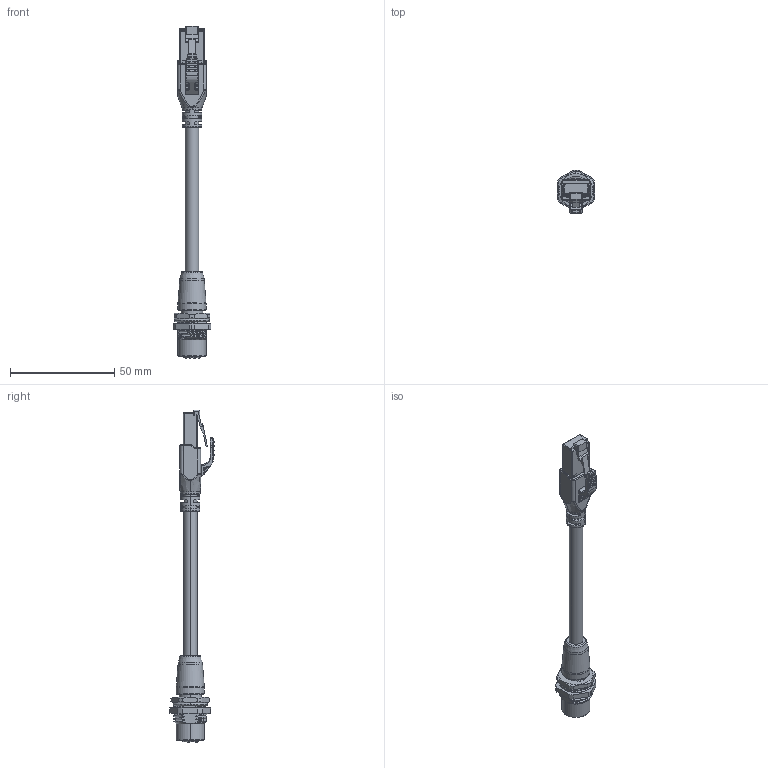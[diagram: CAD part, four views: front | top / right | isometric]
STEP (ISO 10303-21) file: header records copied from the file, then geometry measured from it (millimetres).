
FILE_DESCRIPTION(/* description */ (''),/* implementation_level */ '2;1');
FILE_NAME(/* name */ '0C4221.stp',/* time_stamp */ '2024-09-10T10:11:54+08:00',/* author */ (''),/* organization */ (''),/* preprocessor_version */ 'ST-DEVELOPER v16.7',/* originating_system */ 'SIEMENS PLM Software NX 12.0',/* authorisation */ '');
FILE_SCHEMA (('AUTOMOTIVE_DESIGN { 1 0 10303 214 3 1 1 1 }'));
Products named in the file (1): 64SD41-XXX 220315_step
Bounding box: 18 x 21.26 x 159 mm (x, y, z)
Volume: 11992.7 mm3; surface area: 9422.7 mm2
Topology: 3 solids, 8 shells, 797 faces, 2077 edges, 1337 vertices
Faces by surface type: cylinder 323, plane 259, bspline 113, cone 53, torus 41, sphere 8
Full cylindrical faces by diameter (mm): 1.2 x1, 13.5 x1
Entity records: 48620 total; most frequent: CARTESIAN_POINT 29946, ORIENTED_EDGE 4146, DIRECTION 3534, EDGE_CURVE 2073, VERTEX_POINT 1342, AXIS2_PLACEMENT_3D 1322, LINE 890, VECTOR 890
